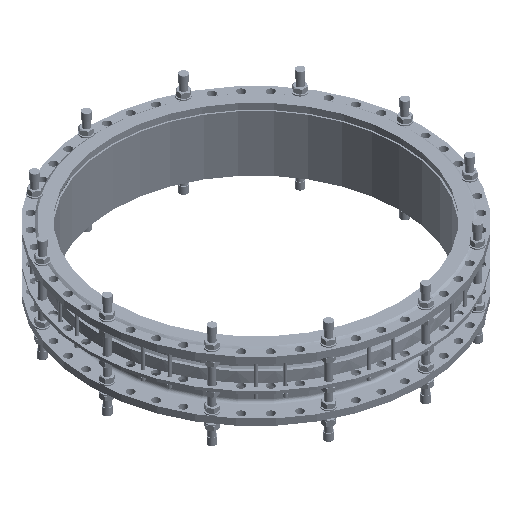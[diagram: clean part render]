
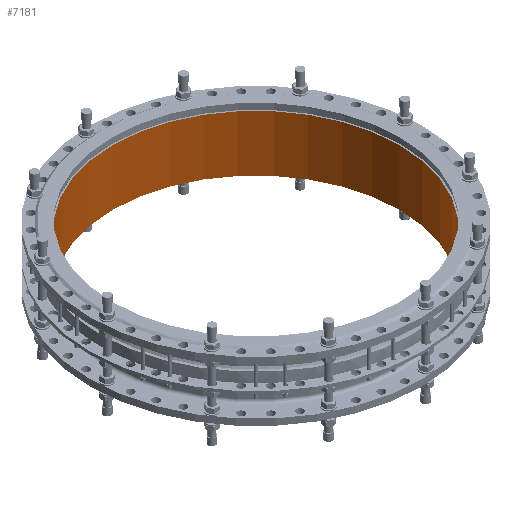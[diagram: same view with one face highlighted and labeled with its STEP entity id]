
A CAD part, isometric view. The second image highlights one B-rep face of the part: STEP entity #7181.
In plain terms, the highlighted cylindrical face has radius 1000 mm (diameter 2000 mm), a full revolution.
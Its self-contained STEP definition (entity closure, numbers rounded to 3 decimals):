
#7181=ADVANCED_FACE('',(#7957,#7959),#7961,.F.);
#7957=FACE_OUTER_BOUND('',#7958,.T.);
#7958=EDGE_LOOP('',(#11544));
#7959=FACE_OUTER_BOUND('',#7960,.T.);
#7960=EDGE_LOOP('',(#11545));
#7961=CYLINDRICAL_SURFACE('',#7962,1000.);
#7962=AXIS2_PLACEMENT_3D('',#7963,#7964,#7965);
#7963=CARTESIAN_POINT('',(0.,0.,0.));
#7964=DIRECTION('',(0.,0.,1.));
#7965=DIRECTION('',(-1.,0.,0.));
#11544=ORIENTED_EDGE('',*,*,#13731,.F.);
#11545=ORIENTED_EDGE('',*,*,#13732,.F.);
#13731=EDGE_CURVE('',#14740,#14740,#14741,.T.);
#13732=EDGE_CURVE('',#14742,#14742,#14743,.T.);
#14740=VERTEX_POINT('',#16561);
#14741=CIRCLE('',#16562,1000.);
#14742=VERTEX_POINT('',#16566);
#14743=CIRCLE('',#16567,1000.);
#16561=CARTESIAN_POINT('',(-1000.,0.,391.));
#16562=AXIS2_PLACEMENT_3D('',#16563,#16564,#16565);
#16563=CARTESIAN_POINT('',(0.,0.,391.));
#16564=DIRECTION('',(0.,0.,-1.));
#16565=DIRECTION('',(-1.,0.,0.));
#16566=CARTESIAN_POINT('',(-1000.,0.,0.));
#16567=AXIS2_PLACEMENT_3D('',#16568,#16569,#16570);
#16568=CARTESIAN_POINT('',(0.,0.,0.));
#16569=DIRECTION('',(0.,0.,1.));
#16570=DIRECTION('',(-1.,0.,0.));
